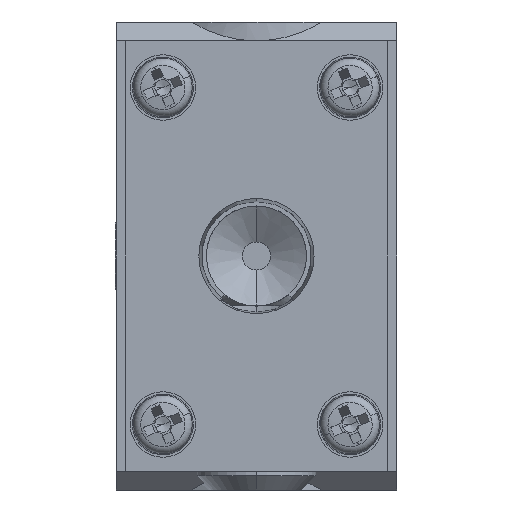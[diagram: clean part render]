
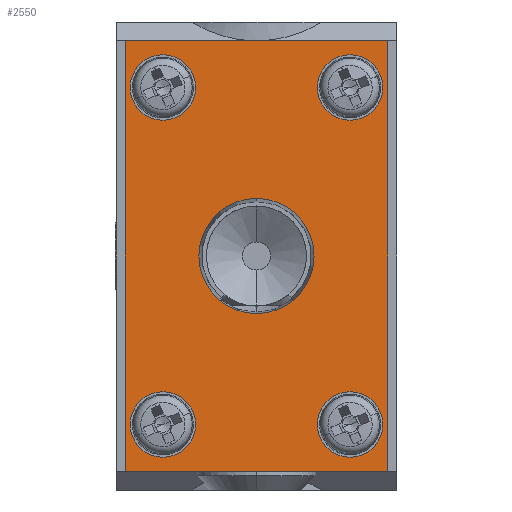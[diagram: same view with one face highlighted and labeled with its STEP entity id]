
A CAD part, left-side view. The second image highlights one B-rep face of the part: STEP entity #2550.
In plain terms, the highlighted planar face has unit normal (-1, 0, 0) as drawn and (1, 0, 0) by its records, which use the part's own axes.
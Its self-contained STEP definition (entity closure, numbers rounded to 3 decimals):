
#7 = EDGE_CURVE ( 'NONE', #4713, #4337, #2638, .T. ) ;
#24 = EDGE_CURVE ( 'NONE', #9526, #9096, #5245, .T. ) ;
#71 = DIRECTION ( 'NONE',  ( 0., 0., -1. ) ) ;
#229 = EDGE_LOOP ( 'NONE', ( #7140, #7103, #1678, #859 ) ) ;
#271 = DIRECTION ( 'NONE',  ( 0., -1., 0. ) ) ;
#305 = CIRCLE ( 'NONE', #938, 3.5 ) ;
#324 = ORIENTED_EDGE ( 'NONE', *, *, #2283, .F. ) ;
#336 = EDGE_CURVE ( 'NONE', #10782, #3266, #1979, .T. ) ;
#366 = AXIS2_PLACEMENT_3D ( 'NONE', #1493, #4698, #6461 ) ;
#859 = ORIENTED_EDGE ( 'NONE', *, *, #7572, .T. ) ;
#904 = DIRECTION ( 'NONE',  ( 1., 0., 0. ) ) ;
#938 = AXIS2_PLACEMENT_3D ( 'NONE', #2648, #904, #8548 ) ;
#948 = DIRECTION ( 'NONE',  ( 0., 0., -1. ) ) ;
#1041 = DIRECTION ( 'NONE',  ( 1., 0., 0. ) ) ;
#1063 = CIRCLE ( 'NONE', #9603, 3.5 ) ;
#1093 = VERTEX_POINT ( 'NONE', #7047 ) ;
#1137 = EDGE_CURVE ( 'NONE', #1093, #4770, #6191, .T. ) ;
#1149 = ORIENTED_EDGE ( 'NONE', *, *, #1187, .F. ) ;
#1162 = FACE_BOUND ( 'NONE', #6201, .T. ) ;
#1171 = CARTESIAN_POINT ( 'NONE',  ( 45.5, 14., 23. ) ) ;
#1187 = EDGE_CURVE ( 'NONE', #5903, #8318, #1063, .T. ) ;
#1220 = DIRECTION ( 'NONE',  ( 0., 1., 0. ) ) ;
#1267 = DIRECTION ( 'NONE',  ( 0., 1., 0. ) ) ;
#1493 = CARTESIAN_POINT ( 'NONE',  ( 45.5, 10., 18. ) ) ;
#1621 = DIRECTION ( 'NONE',  ( 0., 1., 0. ) ) ;
#1678 = ORIENTED_EDGE ( 'NONE', *, *, #24, .F. ) ;
#1685 = CARTESIAN_POINT ( 'NONE',  ( 45.5, -13.5, 18. ) ) ;
#1736 = EDGE_LOOP ( 'NONE', ( #8486, #2304 ) ) ;
#1832 = VECTOR ( 'NONE', #8265, 1000. ) ;
#1979 = CIRCLE ( 'NONE', #2337, 6.154 ) ;
#1988 = DIRECTION ( 'NONE',  ( 0., 1., 0. ) ) ;
#2139 = CARTESIAN_POINT ( 'NONE',  ( 45.5, -10., 18. ) ) ;
#2218 = ORIENTED_EDGE ( 'NONE', *, *, #4351, .F. ) ;
#2228 = EDGE_CURVE ( 'NONE', #9096, #2398, #4100, .T. ) ;
#2283 = EDGE_CURVE ( 'NONE', #3266, #10782, #7110, .T. ) ;
#2304 = ORIENTED_EDGE ( 'NONE', *, *, #8351, .F. ) ;
#2337 = AXIS2_PLACEMENT_3D ( 'NONE', #8419, #7589, #71 ) ;
#2343 = CIRCLE ( 'NONE', #8940, 3.5 ) ;
#2398 = VERTEX_POINT ( 'NONE', #9647 ) ;
#2519 = CIRCLE ( 'NONE', #366, 3.5 ) ;
#2550 = ADVANCED_FACE ( 'NONE', ( #1162, #8452, #5134, #9895, #5665, #4606 ), #5706, .F. ) ;
#2556 = CARTESIAN_POINT ( 'NONE',  ( 45.5, 0., 0. ) ) ;
#2609 = AXIS2_PLACEMENT_3D ( 'NONE', #7039, #7819, #1220 ) ;
#2638 = CIRCLE ( 'NONE', #2609, 3.5 ) ;
#2648 = CARTESIAN_POINT ( 'NONE',  ( 45.5, 10., -18. ) ) ;
#2724 = CARTESIAN_POINT ( 'NONE',  ( 45.5, -10., -18. ) ) ;
#2902 = CARTESIAN_POINT ( 'NONE',  ( 45.5, 10., -18. ) ) ;
#3185 = CARTESIAN_POINT ( 'NONE',  ( 45.5, -6.5, -18. ) ) ;
#3266 = VERTEX_POINT ( 'NONE', #6066 ) ;
#3359 = CIRCLE ( 'NONE', #3903, 3.5 ) ;
#3903 = AXIS2_PLACEMENT_3D ( 'NONE', #2139, #5695, #5652 ) ;
#3988 = ORIENTED_EDGE ( 'NONE', *, *, #4440, .F. ) ;
#3991 = DIRECTION ( 'NONE',  ( 0., 1., 0. ) ) ;
#4100 = LINE ( 'NONE', #8236, #1832 ) ;
#4337 = VERTEX_POINT ( 'NONE', #1685 ) ;
#4351 = EDGE_CURVE ( 'NONE', #4770, #1093, #5312, .T. ) ;
#4360 = ORIENTED_EDGE ( 'NONE', *, *, #5758, .F. ) ;
#4412 = DIRECTION ( 'NONE',  ( 0., 1., 0. ) ) ;
#4440 = EDGE_CURVE ( 'NONE', #8318, #5903, #305, .T. ) ;
#4544 = AXIS2_PLACEMENT_3D ( 'NONE', #5113, #8576, #5083 ) ;
#4606 = FACE_OUTER_BOUND ( 'NONE', #229, .T. ) ;
#4698 = DIRECTION ( 'NONE',  ( 1., 0., 0. ) ) ;
#4713 = VERTEX_POINT ( 'NONE', #5659 ) ;
#4770 = VERTEX_POINT ( 'NONE', #3185 ) ;
#4778 = CARTESIAN_POINT ( 'NONE',  ( 45.5, 6.5, -18. ) ) ;
#4821 = AXIS2_PLACEMENT_3D ( 'NONE', #2724, #1041, #4412 ) ;
#4995 = VECTOR ( 'NONE', #1988, 1000. ) ;
#5042 = EDGE_LOOP ( 'NONE', ( #8685, #4360 ) ) ;
#5083 = DIRECTION ( 'NONE',  ( 0., 1., 0. ) ) ;
#5113 = CARTESIAN_POINT ( 'NONE',  ( 45.5, -10., -18. ) ) ;
#5134 = FACE_BOUND ( 'NONE', #1736, .T. ) ;
#5245 = LINE ( 'NONE', #1171, #4995 ) ;
#5312 = CIRCLE ( 'NONE', #4544, 3.5 ) ;
#5372 = AXIS2_PLACEMENT_3D ( 'NONE', #5739, #8542, #271 ) ;
#5481 = VERTEX_POINT ( 'NONE', #5812 ) ;
#5652 = DIRECTION ( 'NONE',  ( 0., 1., 0. ) ) ;
#5659 = CARTESIAN_POINT ( 'NONE',  ( 45.5, -6.5, 18. ) ) ;
#5665 = FACE_BOUND ( 'NONE', #6354, .T. ) ;
#5671 = DIRECTION ( 'NONE',  ( 1., 0., 0. ) ) ;
#5695 = DIRECTION ( 'NONE',  ( 1., 0., 0. ) ) ;
#5706 = PLANE ( 'NONE',  #5372 ) ;
#5739 = CARTESIAN_POINT ( 'NONE',  ( 45.5, 14., 23. ) ) ;
#5758 = EDGE_CURVE ( 'NONE', #4337, #4713, #3359, .T. ) ;
#5812 = CARTESIAN_POINT ( 'NONE',  ( 45.5, 13.5, 18. ) ) ;
#5841 = CARTESIAN_POINT ( 'NONE',  ( 45.5, 0., -6.154 ) ) ;
#5868 = CARTESIAN_POINT ( 'NONE',  ( 45.5, 6.5, 18. ) ) ;
#5903 = VERTEX_POINT ( 'NONE', #10694 ) ;
#6021 = CARTESIAN_POINT ( 'NONE',  ( 45.5, -14., 23. ) ) ;
#6066 = CARTESIAN_POINT ( 'NONE',  ( 45.5, 0., 6.154 ) ) ;
#6191 = CIRCLE ( 'NONE', #4821, 3.5 ) ;
#6201 = EDGE_LOOP ( 'NONE', ( #6577, #324 ) ) ;
#6254 = EDGE_CURVE ( 'NONE', #8075, #2398, #10435, .T. ) ;
#6285 = AXIS2_PLACEMENT_3D ( 'NONE', #2556, #8488, #948 ) ;
#6354 = EDGE_LOOP ( 'NONE', ( #1149, #3988 ) ) ;
#6461 = DIRECTION ( 'NONE',  ( 0., 1., 0. ) ) ;
#6577 = ORIENTED_EDGE ( 'NONE', *, *, #336, .F. ) ;
#6612 = LINE ( 'NONE', #6021, #6731 ) ;
#6731 = VECTOR ( 'NONE', #6883, 1000. ) ;
#6883 = DIRECTION ( 'NONE',  ( 0., 0., -1. ) ) ;
#7001 = VECTOR ( 'NONE', #1621, 1000. ) ;
#7039 = CARTESIAN_POINT ( 'NONE',  ( 45.5, -10., 18. ) ) ;
#7047 = CARTESIAN_POINT ( 'NONE',  ( 45.5, -13.5, -18. ) ) ;
#7103 = ORIENTED_EDGE ( 'NONE', *, *, #2228, .F. ) ;
#7110 = CIRCLE ( 'NONE', #6285, 6.154 ) ;
#7140 = ORIENTED_EDGE ( 'NONE', *, *, #6254, .T. ) ;
#7572 = EDGE_CURVE ( 'NONE', #9526, #8075, #6612, .T. ) ;
#7589 = DIRECTION ( 'NONE',  ( 1., 0., 0. ) ) ;
#7750 = CARTESIAN_POINT ( 'NONE',  ( 45.5, -14., -23. ) ) ;
#7819 = DIRECTION ( 'NONE',  ( 1., 0., 0. ) ) ;
#7968 = EDGE_LOOP ( 'NONE', ( #2218, #8195 ) ) ;
#8075 = VERTEX_POINT ( 'NONE', #7750 ) ;
#8195 = ORIENTED_EDGE ( 'NONE', *, *, #1137, .F. ) ;
#8236 = CARTESIAN_POINT ( 'NONE',  ( 45.5, 14., 23. ) ) ;
#8265 = DIRECTION ( 'NONE',  ( 0., 0., -1. ) ) ;
#8318 = VERTEX_POINT ( 'NONE', #4778 ) ;
#8351 = EDGE_CURVE ( 'NONE', #9528, #5481, #2519, .T. ) ;
#8419 = CARTESIAN_POINT ( 'NONE',  ( 45.5, 0., 0. ) ) ;
#8452 = FACE_BOUND ( 'NONE', #5042, .T. ) ;
#8486 = ORIENTED_EDGE ( 'NONE', *, *, #10125, .F. ) ;
#8488 = DIRECTION ( 'NONE',  ( 1., 0., 0. ) ) ;
#8542 = DIRECTION ( 'NONE',  ( -1., 0., 0. ) ) ;
#8548 = DIRECTION ( 'NONE',  ( 0., 1., 0. ) ) ;
#8576 = DIRECTION ( 'NONE',  ( 1., 0., 0. ) ) ;
#8685 = ORIENTED_EDGE ( 'NONE', *, *, #7, .F. ) ;
#8940 = AXIS2_PLACEMENT_3D ( 'NONE', #9849, #5671, #3991 ) ;
#9096 = VERTEX_POINT ( 'NONE', #10087 ) ;
#9526 = VERTEX_POINT ( 'NONE', #9825 ) ;
#9528 = VERTEX_POINT ( 'NONE', #5868 ) ;
#9603 = AXIS2_PLACEMENT_3D ( 'NONE', #2902, #10557, #1267 ) ;
#9647 = CARTESIAN_POINT ( 'NONE',  ( 45.5, 14., -23. ) ) ;
#9825 = CARTESIAN_POINT ( 'NONE',  ( 45.5, -14., 23. ) ) ;
#9849 = CARTESIAN_POINT ( 'NONE',  ( 45.5, 10., 18. ) ) ;
#9895 = FACE_BOUND ( 'NONE', #7968, .T. ) ;
#10087 = CARTESIAN_POINT ( 'NONE',  ( 45.5, 14., 23. ) ) ;
#10125 = EDGE_CURVE ( 'NONE', #5481, #9528, #2343, .T. ) ;
#10435 = LINE ( 'NONE', #10887, #7001 ) ;
#10557 = DIRECTION ( 'NONE',  ( 1., 0., 0. ) ) ;
#10694 = CARTESIAN_POINT ( 'NONE',  ( 45.5, 13.5, -18. ) ) ;
#10782 = VERTEX_POINT ( 'NONE', #5841 ) ;
#10887 = CARTESIAN_POINT ( 'NONE',  ( 45.5, 14., -23. ) ) ;
